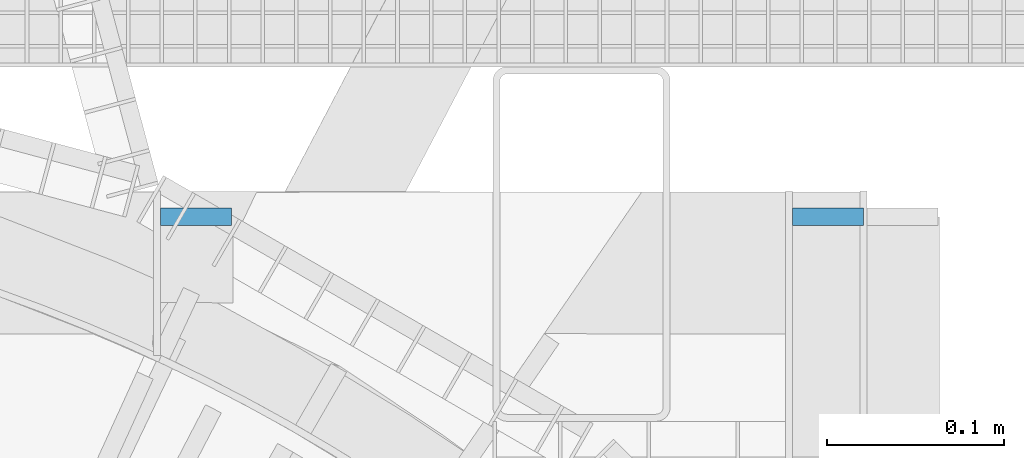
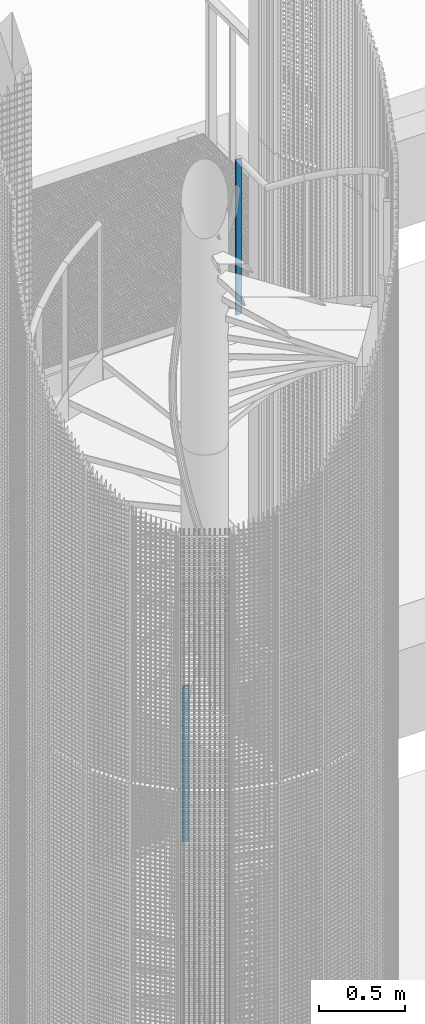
# One storey, part 62 of 1183: 2 columns, 2 elements without a shape of their own.
"""IFC2X3 building model written with IfcOpenShell, lengths in millimetres."""

from ifc_helpers import new_model, si_unit, frame, origin_with_axes, origin_2d_with_axis, place, context, subcontext, project, spatial, rectangle, extrude, material, type_object, element, aggregate, save


model = new_model("IFC2X3")

# Units and contexts
model_context = context("Model", 3, precision=1e-05, world=origin_with_axes())
body_context = subcontext(model_context, "Body", "Model", "MODEL_VIEW")
ifc_project = project(units=[si_unit("LENGTHUNIT", "METRE", prefix="MILLI"), si_unit("AREAUNIT", "SQUARE_METRE"), si_unit("VOLUMEUNIT", "CUBIC_METRE"), si_unit("MASSUNIT", "GRAM", prefix="KILO"), si_unit("TIMEUNIT", "SECOND"), si_unit("PLANEANGLEUNIT", "RADIAN"), si_unit("SOLIDANGLEUNIT", "STERADIAN"), si_unit("THERMODYNAMICTEMPERATUREUNIT", "DEGREE_CELSIUS"), si_unit("LUMINOUSINTENSITYUNIT", "LUMEN")], contexts=[model_context])

# Site, building, storey
site_placement = place(None, origin_with_axes())
site = spatial("IfcSite", under=ifc_project, at=site_placement, Name="Undefined", CompositionType="ELEMENT")
building_placement = place(site_placement, origin_with_axes())
building = spatial("IfcBuilding", under=site, at=building_placement, Name="Undefined", CompositionType="ELEMENT")
storey_placement = place(building_placement, origin_with_axes())
storey = spatial("IfcBuildingStorey", under=building, at=storey_placement, Name="Undefined", CompositionType="ELEMENT", Elevation=0.0)

# Assembly, column
assembly_1_placement = place(storey_placement, origin_with_axes())
assembly_1 = element("IfcElementAssembly", 1, at=assembly_1_placement, inside=storey, Name="MONTANT", AssemblyPlace="NOTDEFINED", PredefinedType="NOTDEFINED")
ifc_material = material(Name="STEEL/S235JR")
column_type = type_object("IfcColumnType", Name="PL10*40", PredefinedType="NOTDEFINED")
column_1_placement = place(assembly_1_placement, frame((22412.9121207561, 1015.37075756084, 13689.84), z_axis=(0.0, 0.0, 1.0), x_axis=(-0.999999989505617, -0.000144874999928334, 0.0)))
column_1 = element("IfcColumn", 2, at=column_1_placement, type_object=column_type, material=ifc_material, Name="MONTANT", context=body_context, shape_type="SweptSolid", body=[
    extrude(rectangle(XDim=10.0, YDim=40.0, at=origin_2d_with_axis()), frame((0.0, 0.0, 1100.0), z_axis=(0.0, 0.0, -1.0), x_axis=(0.0, 1.0, 0.0)), (0.0, 0.0, 1.0), 1100.0),
])
aggregate(assembly_1, [column_1])

assembly_2_placement = place(storey_placement, origin_with_axes())
assembly_2 = element("IfcElementAssembly", 3, at=assembly_2_placement, inside=storey, Name="MONTANT", AssemblyPlace="NOTDEFINED", PredefinedType="NOTDEFINED")
column_2_placement = place(assembly_2_placement, frame((22056.4621207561, 1015.37075756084, 10089.84), z_axis=(0.0, 0.0, 1.0), x_axis=(-0.999999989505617, -0.000144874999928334, 0.0)))
column_2 = element("IfcColumn", 4, at=column_2_placement, type_object=column_type, material=ifc_material, Name="MONTANT", context=body_context, shape_type="SweptSolid", body=[
    extrude(rectangle(XDim=10.0, YDim=40.0, at=origin_2d_with_axis()), frame((0.0, 0.0, 1100.0), z_axis=(0.0, 0.0, -1.0), x_axis=(0.0, 1.0, 0.0)), (0.0, 0.0, 1.0), 1100.0),
])
aggregate(assembly_2, [column_2])

save(model, "model.ifc")
